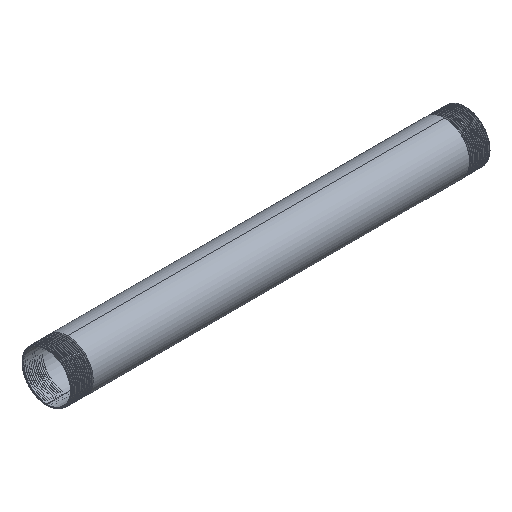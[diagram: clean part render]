
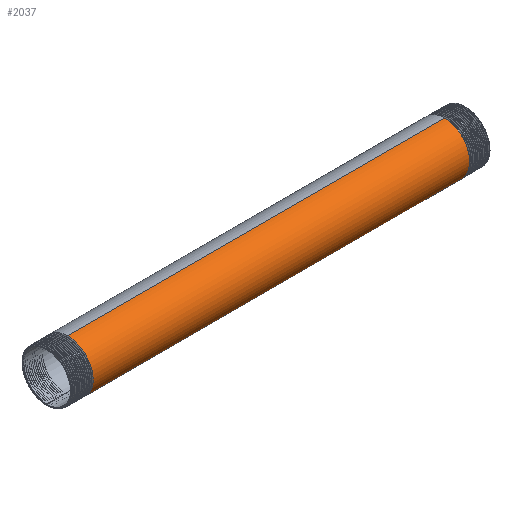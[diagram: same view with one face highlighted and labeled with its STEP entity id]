
A CAD part, isometric view. The second image highlights one B-rep face of the part: STEP entity #2037.
In plain terms, the highlighted cylindrical face has radius 30.15 mm (diameter 60.3 mm), a partial arc.
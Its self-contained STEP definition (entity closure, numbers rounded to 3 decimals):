
#2 = EDGE_CURVE ( 'NONE', #10135, #3677, #10560, .T. ) ;
#123 =( BOUNDED_CURVE ( )  B_SPLINE_CURVE ( 2, ( #10177, #418, #12157, #8243, #293, #8120, #12032, #5353, #3356, #3233, #1442 ),
 .UNSPECIFIED., .F., .T. ) 
 B_SPLINE_CURVE_WITH_KNOTS ( ( 3, 2, 2, 2, 2, 3 ),
 ( 0., 0.007, 0.013, 0.02, 0.027, 0.033 ),
 .UNSPECIFIED. ) 
 CURVE ( )  GEOMETRIC_REPRESENTATION_ITEM ( )  RATIONAL_B_SPLINE_CURVE ( ( 1., 0.951, 1., 0.951, 1., 0.951, 1., 0.951, 1., 0.951, 1. ) ) 
 REPRESENTATION_ITEM ( '' )  );
#186 = ORIENTED_EDGE ( 'NONE', *, *, #2, .T. ) ;
#260 = EDGE_CURVE ( 'NONE', #11454, #3677, #6684, .T. ) ;
#271 = ORIENTED_EDGE ( 'NONE', *, *, #260, .F. ) ;
#293 = CARTESIAN_POINT ( 'NONE',  ( 224.65, -28.674, -9.317 ) ) ;
#418 = CARTESIAN_POINT ( 'NONE',  ( 224.35, -9.796, -30.15 ) ) ;
#995 = CARTESIAN_POINT ( 'NONE',  ( -149.494, 0., 30.15 ) ) ;
#1442 = CARTESIAN_POINT ( 'NONE',  ( 225.25, 0., 30.15 ) ) ;
#1873 = DIRECTION ( 'NONE',  ( 0., 0., 1. ) ) ;
#2037 = ADVANCED_FACE ( 'NONE', ( #12460 ), #7575, .T. ) ;
#2260 = CARTESIAN_POINT ( 'NONE',  ( -225.05, -17.722, 24.392 ) ) ;
#2505 = CARTESIAN_POINT ( 'NONE',  ( -225.15, -9.796, 30.15 ) ) ;
#3093 = CARTESIAN_POINT ( 'NONE',  ( -224.65, -28.674, -9.317 ) ) ;
#3233 = CARTESIAN_POINT ( 'NONE',  ( 225.15, -9.796, 30.15 ) ) ;
#3356 = CARTESIAN_POINT ( 'NONE',  ( 225.05, -17.722, 24.392 ) ) ;
#3677 = VERTEX_POINT ( 'NONE', #10346 ) ;
#3991 = CARTESIAN_POINT ( 'NONE',  ( -224.25, 0., -30.15 ) ) ;
#4057 = CARTESIAN_POINT ( 'NONE',  ( -224.35, -9.796, -30.15 ) ) ;
#5312 = ORIENTED_EDGE ( 'NONE', *, *, #10295, .T. ) ;
#5353 = CARTESIAN_POINT ( 'NONE',  ( 224.95, -25.647, 18.634 ) ) ;
#5871 = DIRECTION ( 'NONE',  ( -1., 0., 0. ) ) ;
#6405 = CARTESIAN_POINT ( 'NONE',  ( 224.25, 0., -30.15 ) ) ;
#6483 = LINE ( 'NONE', #8477, #9994 ) ;
#6574 = ORIENTED_EDGE ( 'NONE', *, *, #7983, .F. ) ;
#6684 =( BOUNDED_CURVE ( )  B_SPLINE_CURVE ( 2, ( #3991, #4057, #7975, #11894, #3093, #7013, #11244, #9137, #2260, #2505, #10345 ),
 .UNSPECIFIED., .F., .F. ) 
 B_SPLINE_CURVE_WITH_KNOTS ( ( 3, 2, 2, 2, 2, 3 ),
 ( 0., 0.007, 0.013, 0.02, 0.027, 0.033 ),
 .UNSPECIFIED. ) 
 CURVE ( )  GEOMETRIC_REPRESENTATION_ITEM ( )  RATIONAL_B_SPLINE_CURVE ( ( 1., 0.951, 1., 0.951, 1., 0.951, 1., 0.951, 1., 0.951, 1. ) ) 
 REPRESENTATION_ITEM ( '' )  );
#7013 = CARTESIAN_POINT ( 'NONE',  ( -224.75, -31.702, 0. ) ) ;
#7221 = EDGE_LOOP ( 'NONE', ( #6574, #5312, #186, #271 ) ) ;
#7575 = CYLINDRICAL_SURFACE ( 'NONE', #7676, 30.15 ) ;
#7676 = AXIS2_PLACEMENT_3D ( 'NONE', #10541, #9591, #1873 ) ;
#7975 = CARTESIAN_POINT ( 'NONE',  ( -224.45, -17.722, -24.392 ) ) ;
#7983 = EDGE_CURVE ( 'NONE', #8394, #11454, #6483, .T. ) ;
#8120 = CARTESIAN_POINT ( 'NONE',  ( 224.75, -31.702, 0. ) ) ;
#8243 = CARTESIAN_POINT ( 'NONE',  ( 224.55, -25.647, -18.634 ) ) ;
#8394 = VERTEX_POINT ( 'NONE', #6405 ) ;
#8477 = CARTESIAN_POINT ( 'NONE',  ( -149.494, 0., -30.15 ) ) ;
#9137 = CARTESIAN_POINT ( 'NONE',  ( -224.95, -25.647, 18.634 ) ) ;
#9591 = DIRECTION ( 'NONE',  ( -1., 0., 0. ) ) ;
#9994 = VECTOR ( 'NONE', #10400, 1000. ) ;
#10135 = VERTEX_POINT ( 'NONE', #10140 ) ;
#10140 = CARTESIAN_POINT ( 'NONE',  ( 225.25, 0., 30.15 ) ) ;
#10177 = CARTESIAN_POINT ( 'NONE',  ( 224.25, 0., -30.15 ) ) ;
#10295 = EDGE_CURVE ( 'NONE', #8394, #10135, #123, .T. ) ;
#10345 = CARTESIAN_POINT ( 'NONE',  ( -225.25, 0., 30.15 ) ) ;
#10346 = CARTESIAN_POINT ( 'NONE',  ( -225.25, 0., 30.15 ) ) ;
#10400 = DIRECTION ( 'NONE',  ( -1., 0., 0. ) ) ;
#10491 = CARTESIAN_POINT ( 'NONE',  ( -224.25, 0., -30.15 ) ) ;
#10541 = CARTESIAN_POINT ( 'NONE',  ( -149.494, 0., 0. ) ) ;
#10560 = LINE ( 'NONE', #995, #11253 ) ;
#11244 = CARTESIAN_POINT ( 'NONE',  ( -224.85, -28.674, 9.317 ) ) ;
#11253 = VECTOR ( 'NONE', #5871, 1000. ) ;
#11454 = VERTEX_POINT ( 'NONE', #10491 ) ;
#11894 = CARTESIAN_POINT ( 'NONE',  ( -224.55, -25.647, -18.634 ) ) ;
#12032 = CARTESIAN_POINT ( 'NONE',  ( 224.85, -28.674, 9.317 ) ) ;
#12157 = CARTESIAN_POINT ( 'NONE',  ( 224.45, -17.722, -24.392 ) ) ;
#12460 = FACE_OUTER_BOUND ( 'NONE', #7221, .T. ) ;
